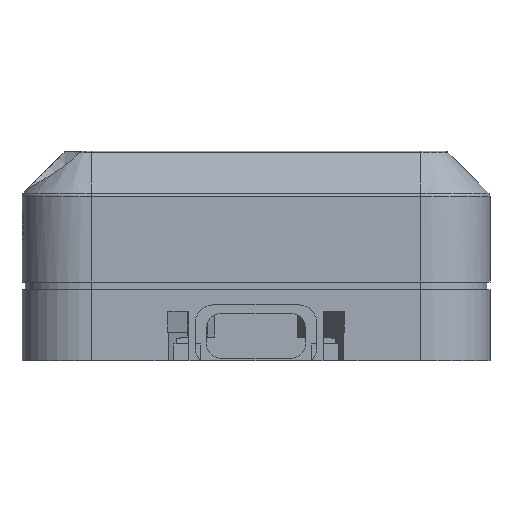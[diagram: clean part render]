
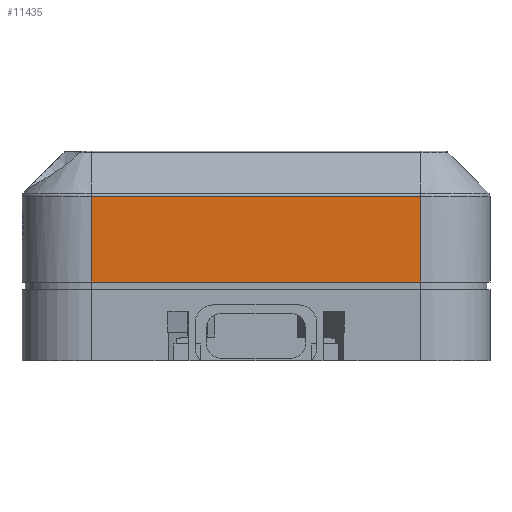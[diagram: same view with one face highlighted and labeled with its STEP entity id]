
A CAD part, front view. The second image highlights one B-rep face of the part: STEP entity #11435.
In plain terms, the highlighted planar face has unit normal (0, -1, 0).
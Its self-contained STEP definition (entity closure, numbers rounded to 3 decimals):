
#2955 = CYLINDRICAL_SURFACE('',#2956,0.5);
#2956 = AXIS2_PLACEMENT_3D('',#2957,#2958,#2959);
#2957 = CARTESIAN_POINT('',(19.,-23.5,21.393));
#2958 = DIRECTION('',(-1.,-0.,-0.));
#2959 = DIRECTION('',(0.,-1.,0.));
#3427 = VERTEX_POINT('',#3428);
#3428 = CARTESIAN_POINT('',(-19.,-24.,21.393));
#3446 = CYLINDRICAL_SURFACE('',#3447,8.);
#3447 = AXIS2_PLACEMENT_3D('',#3448,#3449,#3450);
#3448 = CARTESIAN_POINT('',(-19.,-16.,2.4));
#3449 = DIRECTION('',(0.,0.,1.));
#3450 = DIRECTION('',(-1.,-0.,0.));
#4218 = VERTEX_POINT('',#4219);
#4219 = CARTESIAN_POINT('',(19.,-24.,21.393));
#4260 = CYLINDRICAL_SURFACE('',#4261,8.);
#4261 = AXIS2_PLACEMENT_3D('',#4262,#4263,#4264);
#4262 = CARTESIAN_POINT('',(19.,-16.,2.4));
#4263 = DIRECTION('',(0.,0.,1.));
#4264 = DIRECTION('',(1.,0.,-0.));
#4283 = EDGE_CURVE('',#4218,#3427,#4284,.T.);
#4284 = SURFACE_CURVE('',#4285,(#4289,#4296),.PCURVE_S1.);
#4285 = LINE('',#4286,#4287);
#4286 = CARTESIAN_POINT('',(19.,-24.,21.393));
#4287 = VECTOR('',#4288,1.);
#4288 = DIRECTION('',(-1.,-0.,-0.));
#4289 = PCURVE('',#2955,#4290);
#4290 = DEFINITIONAL_REPRESENTATION('',(#4291),#4295);
#4291 = LINE('',#4292,#4293);
#4292 = CARTESIAN_POINT('',(0.,0.));
#4293 = VECTOR('',#4294,1.);
#4294 = DIRECTION('',(0.,1.));
#4295 = ( GEOMETRIC_REPRESENTATION_CONTEXT(2) 
PARAMETRIC_REPRESENTATION_CONTEXT() REPRESENTATION_CONTEXT('2D SPACE',''
  ) );
#4296 = PCURVE('',#4297,#4302);
#4297 = PLANE('',#4298);
#4298 = AXIS2_PLACEMENT_3D('',#4299,#4300,#4301);
#4299 = CARTESIAN_POINT('',(-27.,-24.,2.4));
#4300 = DIRECTION('',(0.,1.,0.));
#4301 = DIRECTION('',(0.,0.,1.));
#4302 = DEFINITIONAL_REPRESENTATION('',(#4303),#4307);
#4303 = LINE('',#4304,#4305);
#4304 = CARTESIAN_POINT('',(18.993,46.));
#4305 = VECTOR('',#4306,1.);
#4306 = DIRECTION('',(0.,-1.));
#4307 = ( GEOMETRIC_REPRESENTATION_CONTEXT(2) 
PARAMETRIC_REPRESENTATION_CONTEXT() REPRESENTATION_CONTEXT('2D SPACE',''
  ) );
#4753 = VERTEX_POINT('',#4754);
#4754 = CARTESIAN_POINT('',(-19.,-24.,11.5));
#4769 = PLANE('',#4770);
#4770 = AXIS2_PLACEMENT_3D('',#4771,#4772,#4773);
#4771 = CARTESIAN_POINT('',(-27.5,-24.5,11.5));
#4772 = DIRECTION('',(0.,0.,1.));
#4773 = DIRECTION('',(1.,0.,0.));
#4781 = EDGE_CURVE('',#4753,#3427,#4782,.T.);
#4782 = SURFACE_CURVE('',#4783,(#4787,#4794),.PCURVE_S1.);
#4783 = LINE('',#4784,#4785);
#4784 = CARTESIAN_POINT('',(-19.,-24.,2.4));
#4785 = VECTOR('',#4786,1.);
#4786 = DIRECTION('',(0.,0.,1.));
#4787 = PCURVE('',#3446,#4788);
#4788 = DEFINITIONAL_REPRESENTATION('',(#4789),#4793);
#4789 = LINE('',#4790,#4791);
#4790 = CARTESIAN_POINT('',(1.571,0.));
#4791 = VECTOR('',#4792,1.);
#4792 = DIRECTION('',(0.,1.));
#4793 = ( GEOMETRIC_REPRESENTATION_CONTEXT(2) 
PARAMETRIC_REPRESENTATION_CONTEXT() REPRESENTATION_CONTEXT('2D SPACE',''
  ) );
#4794 = PCURVE('',#4297,#4795);
#4795 = DEFINITIONAL_REPRESENTATION('',(#4796),#4800);
#4796 = LINE('',#4797,#4798);
#4797 = CARTESIAN_POINT('',(0.,8.));
#4798 = VECTOR('',#4799,1.);
#4799 = DIRECTION('',(1.,0.));
#4800 = ( GEOMETRIC_REPRESENTATION_CONTEXT(2) 
PARAMETRIC_REPRESENTATION_CONTEXT() REPRESENTATION_CONTEXT('2D SPACE',''
  ) );
#11391 = VERTEX_POINT('',#11392);
#11392 = CARTESIAN_POINT('',(19.,-24.,11.5));
#11414 = EDGE_CURVE('',#11391,#4218,#11415,.T.);
#11415 = SURFACE_CURVE('',#11416,(#11420,#11427),.PCURVE_S1.);
#11416 = LINE('',#11417,#11418);
#11417 = CARTESIAN_POINT('',(19.,-24.,2.4));
#11418 = VECTOR('',#11419,1.);
#11419 = DIRECTION('',(0.,0.,1.));
#11420 = PCURVE('',#4260,#11421);
#11421 = DEFINITIONAL_REPRESENTATION('',(#11422),#11426);
#11422 = LINE('',#11423,#11424);
#11423 = CARTESIAN_POINT('',(-1.571,0.));
#11424 = VECTOR('',#11425,1.);
#11425 = DIRECTION('',(-0.,1.));
#11426 = ( GEOMETRIC_REPRESENTATION_CONTEXT(2) 
PARAMETRIC_REPRESENTATION_CONTEXT() REPRESENTATION_CONTEXT('2D SPACE',''
  ) );
#11427 = PCURVE('',#4297,#11428);
#11428 = DEFINITIONAL_REPRESENTATION('',(#11429),#11433);
#11429 = LINE('',#11430,#11431);
#11430 = CARTESIAN_POINT('',(0.,46.));
#11431 = VECTOR('',#11432,1.);
#11432 = DIRECTION('',(1.,0.));
#11433 = ( GEOMETRIC_REPRESENTATION_CONTEXT(2) 
PARAMETRIC_REPRESENTATION_CONTEXT() REPRESENTATION_CONTEXT('2D SPACE',''
  ) );
#11435 = ADVANCED_FACE('',(#11436),#4297,.F.);
#11436 = FACE_BOUND('',#11437,.F.);
#11437 = EDGE_LOOP('',(#11438,#11457,#11458,#11459));
#11438 = ORIENTED_EDGE('',*,*,#11439,.F.);
#11439 = EDGE_CURVE('',#4753,#11391,#11440,.T.);
#11440 = SURFACE_CURVE('',#11441,(#11445,#11451),.PCURVE_S1.);
#11441 = LINE('',#11442,#11443);
#11442 = CARTESIAN_POINT('',(-27.25,-24.,11.5));
#11443 = VECTOR('',#11444,1.);
#11444 = DIRECTION('',(1.,0.,0.));
#11445 = PCURVE('',#4297,#11446);
#11446 = DEFINITIONAL_REPRESENTATION('',(#11447),#11450);
#11447 = B_SPLINE_CURVE_WITH_KNOTS('',1,(#11448,#11449),.UNSPECIFIED.,
  .F.,.F.,(2,2),(8.25,46.25),.PIECEWISE_BEZIER_KNOTS.);
#11448 = CARTESIAN_POINT('',(9.1,8.));
#11449 = CARTESIAN_POINT('',(9.1,46.));
#11450 = ( GEOMETRIC_REPRESENTATION_CONTEXT(2) 
PARAMETRIC_REPRESENTATION_CONTEXT() REPRESENTATION_CONTEXT('2D SPACE',''
  ) );
#11451 = PCURVE('',#4769,#11452);
#11452 = DEFINITIONAL_REPRESENTATION('',(#11453),#11456);
#11453 = B_SPLINE_CURVE_WITH_KNOTS('',1,(#11454,#11455),.UNSPECIFIED.,
  .F.,.F.,(2,2),(8.25,46.25),.PIECEWISE_BEZIER_KNOTS.);
#11454 = CARTESIAN_POINT('',(8.5,0.5));
#11455 = CARTESIAN_POINT('',(46.5,0.5));
#11456 = ( GEOMETRIC_REPRESENTATION_CONTEXT(2) 
PARAMETRIC_REPRESENTATION_CONTEXT() REPRESENTATION_CONTEXT('2D SPACE',''
  ) );
#11457 = ORIENTED_EDGE('',*,*,#4781,.T.);
#11458 = ORIENTED_EDGE('',*,*,#4283,.F.);
#11459 = ORIENTED_EDGE('',*,*,#11414,.F.);
